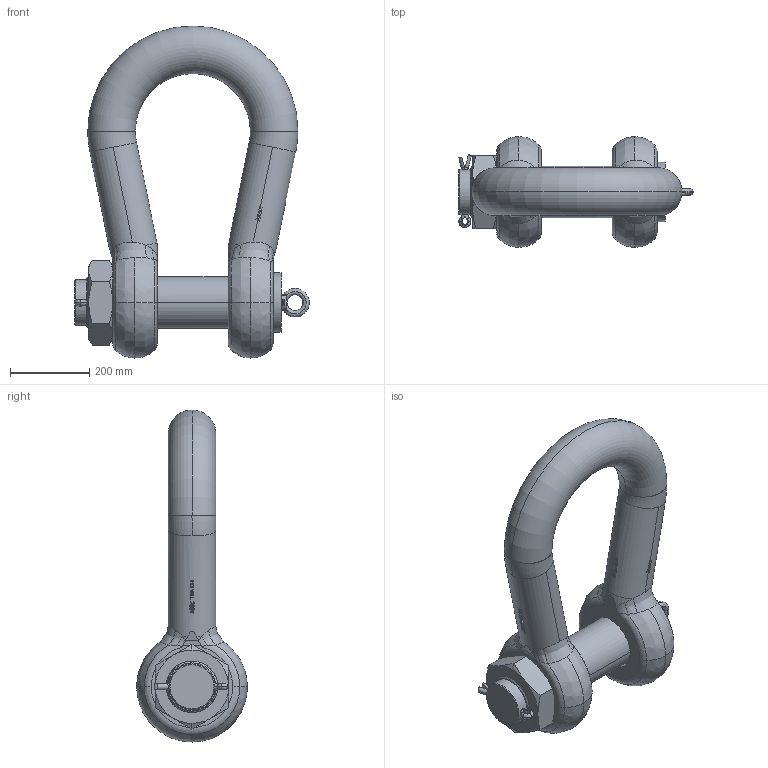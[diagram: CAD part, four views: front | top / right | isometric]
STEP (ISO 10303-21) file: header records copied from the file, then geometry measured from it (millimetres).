
FILE_DESCRIPTION(('STEP AP214'),'1');
FILE_NAME('hdgphm0200.stp','2017-06-30T09:23:52',('TraceParts'),('TraceParts S.A.'),'Spatial InterOp 3D',' ',' ');
FILE_SCHEMA(('automotive_design'));
Length unit declared in the file: millimetre
Products named in the file (5): HDGPHM0200|HDGPHM0200_1#HDGPHM0200_1;MANIFOLD_SOLID_BREP #20679; HDGPHM0200|HDGPHM0200_1#HDGPHM0200_2;MANIFOLD_SOLID_BREP #37179; hdgphm0200_3; hdgphm0200_4; hdgphm0200_5
Bounding box: 591.27 x 279 x 837.5 mm (x, y, z)
Volume: 31037645.5 mm3; surface area: 1274418.7 mm2
Topology: 5 solids, 5 shells, 1238 faces, 4894 edges, 3715 vertices
Faces by surface type: bspline 472, plane 390, cylinder 314, torus 36, cone 26
Entity records: 98035 total; most frequent: CARTESIAN_POINT 55036, ORIENTED_EDGE 9784, EDGE_CURVE 4892, VERTEX_POINT 3715, B_SPLINE_CURVE_WITH_KNOTS 3654, DIRECTION 2825, EDGE_LOOP 1299, STYLED_ITEM 1243
